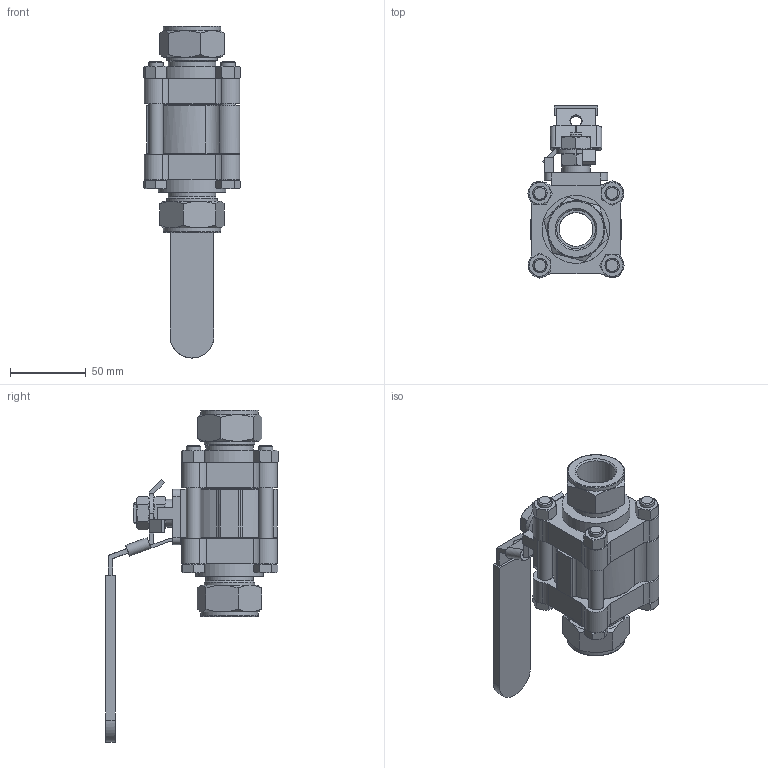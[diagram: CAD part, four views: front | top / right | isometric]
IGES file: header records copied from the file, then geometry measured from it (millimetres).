
Global section: file name: SW3203-S16; native system: Autodesk Inventor 2016; preprocessor: unknown; author: DESIGNPC2; date: 20160502.104511; units: millimetre
Bounding box: 64.06 x 113.64 x 219.16 mm (x, y, z)
Volume: 275232.3 mm3; surface area: 95746 mm2
Topology: 16 solids, 16 shells, 850 faces, 2158 edges, 1413 vertices
Faces by surface type: bspline 850
